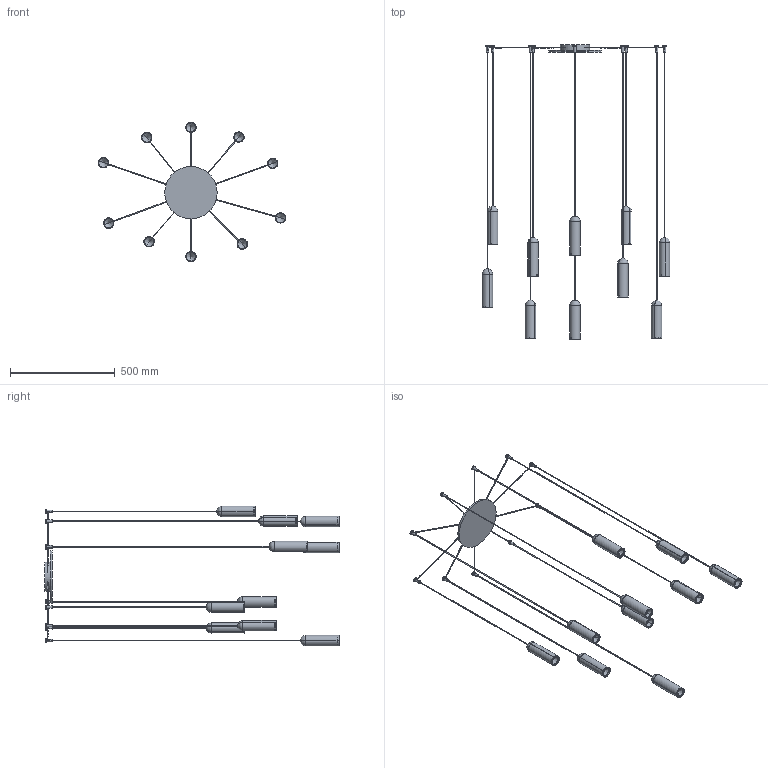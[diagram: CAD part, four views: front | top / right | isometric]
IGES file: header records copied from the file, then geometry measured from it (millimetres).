
Start section: SolidWorks IGES file using analytic representation for surfaces
Global section: file name: Y:\eforma\TECNICO\SOLIDWORKS\E-FORMA\09-LAMPADE\NANUM\02 parts\NANA7-00-NANUM_10 sospensione.IGS; native system: SolidWorks 2022; preprocessor: SolidWorks 2022; author: eforma.tech; date: 250505.164105; units: millimetre
Bounding box: 895.92 x 1404.5 x 667 mm (x, y, z)
Volume: 1750378.5 mm3; surface area: 898763.8 mm2
Topology: 31 solids, 31 shells, 383 faces, 748 edges, 428 vertices
Faces by surface type: revolution 300, plane 83
